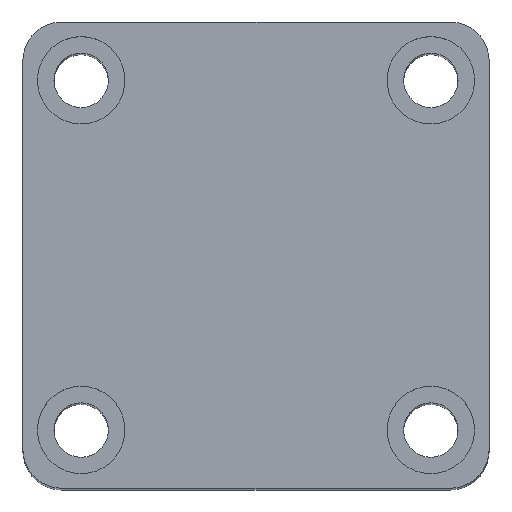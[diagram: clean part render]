
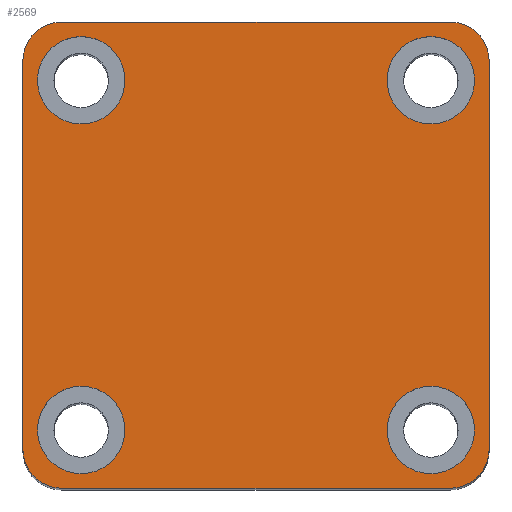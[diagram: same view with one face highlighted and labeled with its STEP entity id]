
A CAD part, top view. The second image highlights one B-rep face of the part: STEP entity #2569.
In plain terms, the highlighted planar face has unit normal (0, 0, 1).
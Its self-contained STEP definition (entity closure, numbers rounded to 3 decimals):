
#6 = EDGE_LOOP ( 'NONE', ( #1390, #1389 ) ) ;
#8 = EDGE_LOOP ( 'NONE', ( #1472, #1474 ) ) ;
#9 = EDGE_LOOP ( 'NONE', ( #1447, #1449, #1359, #1348, #1469, #1473, #1475, #1476 ) ) ;
#12 = EDGE_LOOP ( 'NONE', ( #1365, #1392 ) ) ;
#13 = EDGE_LOOP ( 'NONE', ( #1463, #1465 ) ) ;
#98 = VERTEX_POINT ( 'NONE', #1844 ) ;
#101 = VERTEX_POINT ( 'NONE', #1819 ) ;
#110 = VERTEX_POINT ( 'NONE', #1792 ) ;
#111 = VERTEX_POINT ( 'NONE', #1789 ) ;
#112 = VERTEX_POINT ( 'NONE', #1787 ) ;
#124 = VERTEX_POINT ( 'NONE', #1758 ) ;
#159 = VERTEX_POINT ( 'NONE', #1660 ) ;
#167 = VERTEX_POINT ( 'NONE', #1642 ) ;
#177 = VERTEX_POINT ( 'NONE', #1607 ) ;
#178 = VERTEX_POINT ( 'NONE', #1601 ) ;
#183 = VERTEX_POINT ( 'NONE', #1574 ) ;
#189 = VERTEX_POINT ( 'NONE', #1557 ) ;
#191 = VERTEX_POINT ( 'NONE', #1537 ) ;
#206 = VERTEX_POINT ( 'NONE', #1565 ) ;
#257 = VERTEX_POINT ( 'NONE', #1526 ) ;
#264 = VERTEX_POINT ( 'NONE', #1546 ) ;
#403 = FACE_BOUND ( 'NONE', #6, .T. ) ;
#404 = FACE_BOUND ( 'NONE', #8, .T. ) ;
#406 = FACE_BOUND ( 'NONE', #12, .T. ) ;
#407 = FACE_BOUND ( 'NONE', #13, .T. ) ;
#408 = FACE_OUTER_BOUND ( 'NONE', #9, .T. ) ;
#592 = CIRCLE ( 'NONE', #828, 4. ) ;
#595 = CIRCLE ( 'NONE', #836, 4. ) ;
#599 = CIRCLE ( 'NONE', #831, 4. ) ;
#613 = VECTOR ( 'NONE', #1520, 1000. ) ;
#616 = LINE ( 'NONE', #1522, #613 ) ;
#625 = VECTOR ( 'NONE', #1544, 1000. ) ;
#629 = VECTOR ( 'NONE', #1548, 1000. ) ;
#632 = LINE ( 'NONE', #1549, #629 ) ;
#636 = LINE ( 'NONE', #1570, #625 ) ;
#637 = VECTOR ( 'NONE', #1562, 1000. ) ;
#640 = LINE ( 'NONE', #1566, #637 ) ;
#646 = CIRCLE ( 'NONE', #868, 4.5 ) ;
#647 = CIRCLE ( 'NONE', #870, 4.5 ) ;
#648 = CIRCLE ( 'NONE', #895, 4.5 ) ;
#651 = CIRCLE ( 'NONE', #897, 4. ) ;
#652 = CIRCLE ( 'NONE', #896, 4.5 ) ;
#671 = CIRCLE ( 'NONE', #909, 4.5 ) ;
#677 = CIRCLE ( 'NONE', #911, 4.5 ) ;
#681 = CIRCLE ( 'NONE', #913, 4.5 ) ;
#690 = CIRCLE ( 'NONE', #1041, 4.5 ) ;
#805 = AXIS2_PLACEMENT_3D ( 'NONE', #2338, #2339, #2334 ) ;
#828 = AXIS2_PLACEMENT_3D ( 'NONE', #1979, #1958, #1946 ) ;
#831 = AXIS2_PLACEMENT_3D ( 'NONE', #2036, #2026, #2024 ) ;
#836 = AXIS2_PLACEMENT_3D ( 'NONE', #2105, #2102, #2098 ) ;
#868 = AXIS2_PLACEMENT_3D ( 'NONE', #1573, #1572, #1571 ) ;
#870 = AXIS2_PLACEMENT_3D ( 'NONE', #1579, #1578, #1577 ) ;
#895 = AXIS2_PLACEMENT_3D ( 'NONE', #1586, #1585, #1583 ) ;
#896 = AXIS2_PLACEMENT_3D ( 'NONE', #1592, #1589, #1588 ) ;
#897 = AXIS2_PLACEMENT_3D ( 'NONE', #1595, #1594, #1593 ) ;
#909 = AXIS2_PLACEMENT_3D ( 'NONE', #1640, #1639, #1638 ) ;
#911 = AXIS2_PLACEMENT_3D ( 'NONE', #1656, #1655, #1654 ) ;
#913 = AXIS2_PLACEMENT_3D ( 'NONE', #1671, #1670, #1669 ) ;
#987 = EDGE_CURVE ( 'NONE', #177, #178, #690, .T. ) ;
#992 = EDGE_CURVE ( 'NONE', #191, #264, #681, .T. ) ;
#996 = EDGE_CURVE ( 'NONE', #257, #206, #677, .T. ) ;
#1000 = EDGE_CURVE ( 'NONE', #183, #189, #671, .T. ) ;
#1013 = EDGE_CURVE ( 'NONE', #112, #98, #651, .T. ) ;
#1014 = EDGE_CURVE ( 'NONE', #189, #183, #652, .T. ) ;
#1015 = EDGE_CURVE ( 'NONE', #206, #257, #648, .T. ) ;
#1016 = EDGE_CURVE ( 'NONE', #264, #191, #647, .T. ) ;
#1017 = EDGE_CURVE ( 'NONE', #178, #177, #646, .T. ) ;
#1021 = EDGE_CURVE ( 'NONE', #101, #167, #640, .T. ) ;
#1025 = EDGE_CURVE ( 'NONE', #98, #124, #632, .T. ) ;
#1027 = EDGE_CURVE ( 'NONE', #111, #112, #636, .T. ) ;
#1033 = EDGE_CURVE ( 'NONE', #159, #110, #616, .T. ) ;
#1041 = AXIS2_PLACEMENT_3D ( 'NONE', #1693, #1692, #1691 ) ;
#1054 = EDGE_CURVE ( 'NONE', #124, #101, #595, .T. ) ;
#1056 = EDGE_CURVE ( 'NONE', #167, #159, #599, .T. ) ;
#1057 = EDGE_CURVE ( 'NONE', #110, #111, #592, .T. ) ;
#1348 = ORIENTED_EDGE ( 'NONE', *, *, #1054, .T. ) ;
#1359 = ORIENTED_EDGE ( 'NONE', *, *, #1025, .T. ) ;
#1365 = ORIENTED_EDGE ( 'NONE', *, *, #1017, .F. ) ;
#1389 = ORIENTED_EDGE ( 'NONE', *, *, #992, .F. ) ;
#1390 = ORIENTED_EDGE ( 'NONE', *, *, #1016, .F. ) ;
#1392 = ORIENTED_EDGE ( 'NONE', *, *, #987, .F. ) ;
#1447 = ORIENTED_EDGE ( 'NONE', *, *, #1027, .T. ) ;
#1449 = ORIENTED_EDGE ( 'NONE', *, *, #1013, .T. ) ;
#1463 = ORIENTED_EDGE ( 'NONE', *, *, #1015, .F. ) ;
#1465 = ORIENTED_EDGE ( 'NONE', *, *, #996, .F. ) ;
#1469 = ORIENTED_EDGE ( 'NONE', *, *, #1021, .T. ) ;
#1472 = ORIENTED_EDGE ( 'NONE', *, *, #1014, .F. ) ;
#1473 = ORIENTED_EDGE ( 'NONE', *, *, #1056, .T. ) ;
#1474 = ORIENTED_EDGE ( 'NONE', *, *, #1000, .F. ) ;
#1475 = ORIENTED_EDGE ( 'NONE', *, *, #1033, .T. ) ;
#1476 = ORIENTED_EDGE ( 'NONE', *, *, #1057, .T. ) ;
#1520 = DIRECTION ( 'NONE',  ( 0., 1., 0. ) ) ;
#1522 = CARTESIAN_POINT ( 'NONE',  ( 24., 24., 105. ) ) ;
#1526 = CARTESIAN_POINT ( 'NONE',  ( -22.5, -18., 105. ) ) ;
#1537 = CARTESIAN_POINT ( 'NONE',  ( 13.5, 18., 105. ) ) ;
#1544 = DIRECTION ( 'NONE',  ( -1., 0., 0. ) ) ;
#1546 = CARTESIAN_POINT ( 'NONE',  ( 22.5, 18., 105. ) ) ;
#1548 = DIRECTION ( 'NONE',  ( 0., -1., 0. ) ) ;
#1549 = CARTESIAN_POINT ( 'NONE',  ( -24., 24., 105. ) ) ;
#1557 = CARTESIAN_POINT ( 'NONE',  ( 22.5, -18., 105. ) ) ;
#1562 = DIRECTION ( 'NONE',  ( 1., 0., 0. ) ) ;
#1565 = CARTESIAN_POINT ( 'NONE',  ( -13.5, -18., 105. ) ) ;
#1566 = CARTESIAN_POINT ( 'NONE',  ( -24., -24., 105. ) ) ;
#1570 = CARTESIAN_POINT ( 'NONE',  ( -24., 24., 105. ) ) ;
#1571 = DIRECTION ( 'NONE',  ( 1., 0., 0. ) ) ;
#1572 = DIRECTION ( 'NONE',  ( 0., 0., 1. ) ) ;
#1573 = CARTESIAN_POINT ( 'NONE',  ( -18., 18., 105. ) ) ;
#1574 = CARTESIAN_POINT ( 'NONE',  ( 13.5, -18., 105. ) ) ;
#1577 = DIRECTION ( 'NONE',  ( 1., 0., 0. ) ) ;
#1578 = DIRECTION ( 'NONE',  ( 0., 0., 1. ) ) ;
#1579 = CARTESIAN_POINT ( 'NONE',  ( 18., 18., 105. ) ) ;
#1583 = DIRECTION ( 'NONE',  ( 1., 0., 0. ) ) ;
#1585 = DIRECTION ( 'NONE',  ( 0., 0., 1. ) ) ;
#1586 = CARTESIAN_POINT ( 'NONE',  ( -18., -18., 105. ) ) ;
#1588 = DIRECTION ( 'NONE',  ( 1., 0., 0. ) ) ;
#1589 = DIRECTION ( 'NONE',  ( 0., 0., 1. ) ) ;
#1592 = CARTESIAN_POINT ( 'NONE',  ( 18., -18., 105. ) ) ;
#1593 = DIRECTION ( 'NONE',  ( 1., 0., 0. ) ) ;
#1594 = DIRECTION ( 'NONE',  ( 0., 0., 1. ) ) ;
#1595 = CARTESIAN_POINT ( 'NONE',  ( -20., 20., 105. ) ) ;
#1601 = CARTESIAN_POINT ( 'NONE',  ( -13.5, 18., 105. ) ) ;
#1607 = CARTESIAN_POINT ( 'NONE',  ( -22.5, 18., 105. ) ) ;
#1638 = DIRECTION ( 'NONE',  ( 1., 0., 0. ) ) ;
#1639 = DIRECTION ( 'NONE',  ( 0., 0., 1. ) ) ;
#1640 = CARTESIAN_POINT ( 'NONE',  ( 18., -18., 105. ) ) ;
#1642 = CARTESIAN_POINT ( 'NONE',  ( 20., -24., 105. ) ) ;
#1654 = DIRECTION ( 'NONE',  ( 1., 0., 0. ) ) ;
#1655 = DIRECTION ( 'NONE',  ( 0., 0., 1. ) ) ;
#1656 = CARTESIAN_POINT ( 'NONE',  ( -18., -18., 105. ) ) ;
#1660 = CARTESIAN_POINT ( 'NONE',  ( 24., -20., 105. ) ) ;
#1669 = DIRECTION ( 'NONE',  ( 1., 0., 0. ) ) ;
#1670 = DIRECTION ( 'NONE',  ( 0., 0., 1. ) ) ;
#1671 = CARTESIAN_POINT ( 'NONE',  ( 18., 18., 105. ) ) ;
#1691 = DIRECTION ( 'NONE',  ( 1., 0., 0. ) ) ;
#1692 = DIRECTION ( 'NONE',  ( 0., 0., 1. ) ) ;
#1693 = CARTESIAN_POINT ( 'NONE',  ( -18., 18., 105. ) ) ;
#1758 = CARTESIAN_POINT ( 'NONE',  ( -24., -20., 105. ) ) ;
#1787 = CARTESIAN_POINT ( 'NONE',  ( -20., 24., 105. ) ) ;
#1789 = CARTESIAN_POINT ( 'NONE',  ( 20., 24., 105. ) ) ;
#1792 = CARTESIAN_POINT ( 'NONE',  ( 24., 20., 105. ) ) ;
#1819 = CARTESIAN_POINT ( 'NONE',  ( -20., -24., 105. ) ) ;
#1844 = CARTESIAN_POINT ( 'NONE',  ( -24., 20., 105. ) ) ;
#1946 = DIRECTION ( 'NONE',  ( 1., 0., 0. ) ) ;
#1958 = DIRECTION ( 'NONE',  ( 0., 0., 1. ) ) ;
#1979 = CARTESIAN_POINT ( 'NONE',  ( 20., 20., 105. ) ) ;
#2024 = DIRECTION ( 'NONE',  ( 1., 0., 0. ) ) ;
#2026 = DIRECTION ( 'NONE',  ( 0., 0., 1. ) ) ;
#2036 = CARTESIAN_POINT ( 'NONE',  ( 20., -20., 105. ) ) ;
#2098 = DIRECTION ( 'NONE',  ( 1., 0., 0. ) ) ;
#2102 = DIRECTION ( 'NONE',  ( 0., 0., 1. ) ) ;
#2105 = CARTESIAN_POINT ( 'NONE',  ( -20., -20., 105. ) ) ;
#2334 = DIRECTION ( 'NONE',  ( 1., 0., 0. ) ) ;
#2336 = PLANE ( 'NONE',  #805 ) ;
#2338 = CARTESIAN_POINT ( 'NONE',  ( 0., 0., 105. ) ) ;
#2339 = DIRECTION ( 'NONE',  ( 0., 0., 1. ) ) ;
#2569 = ADVANCED_FACE ( 'NONE', ( #406, #403, #407, #404, #408 ), #2336, .T. ) ;
